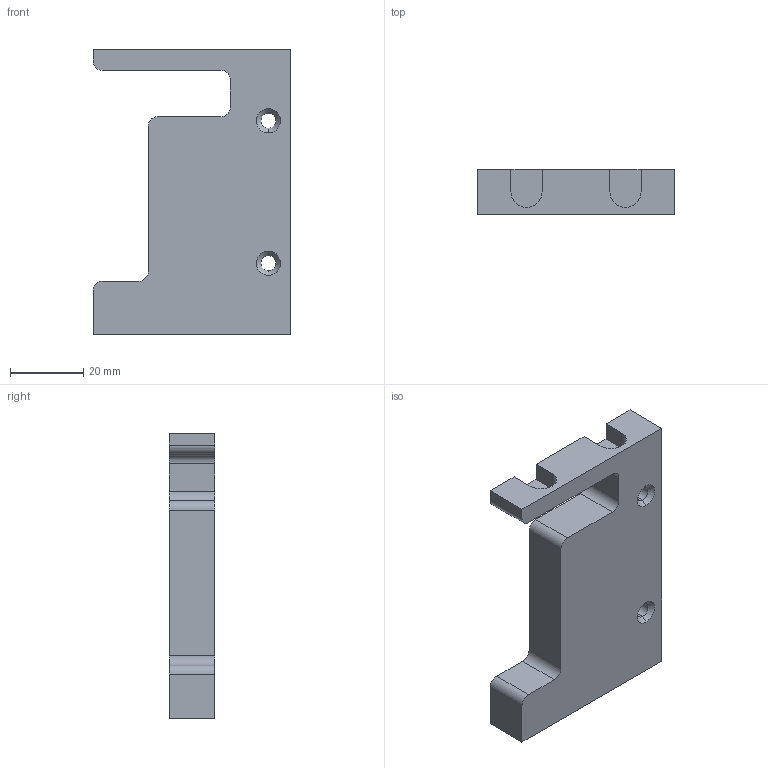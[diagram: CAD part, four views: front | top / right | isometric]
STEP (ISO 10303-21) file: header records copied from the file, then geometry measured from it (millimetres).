
FILE_DESCRIPTION (( 'STEP AP203' ), '1' );
FILE_NAME ('Section_C1.STEP', '2026-07-26T18:14:26', ( '' ), ( '' ), 'SwSTEP 2.0', 'SolidWorks 2024', '' );
FILE_SCHEMA (( 'CONFIG_CONTROL_DESIGN' ));
Length unit declared in the file: inch
Products named in the file (1): Section_C1
Bounding box: 54.19 x 12.34 x 78.08 mm (x, y, z)
Volume: 35954 mm3; surface area: 10860.2 mm2
Topology: 1 solids, 1 shells, 42 faces, 116 edges, 76 vertices
Faces by surface type: plane 24, cylinder 14, cone 4
Entity records: 1427 total; most frequent: CARTESIAN_POINT 235, DIRECTION 234, ORIENTED_EDGE 232, EDGE_CURVE 116, LINE 84, VECTOR 84, VERTEX_POINT 76, AXIS2_PLACEMENT_3D 75
